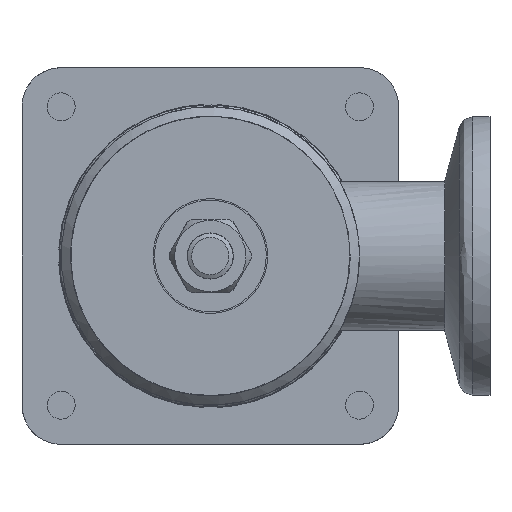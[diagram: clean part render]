
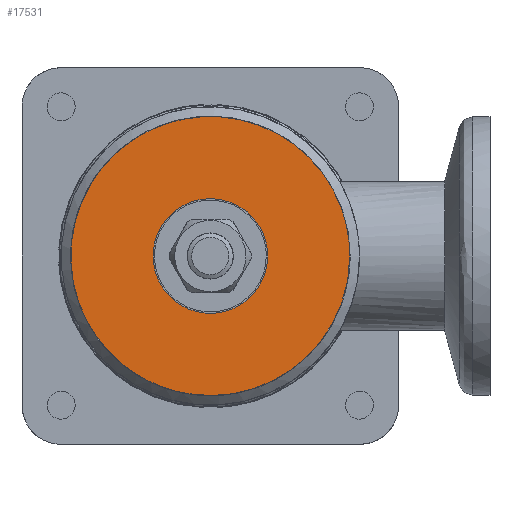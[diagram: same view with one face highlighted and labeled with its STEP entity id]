
A CAD part, front view. The second image highlights one B-rep face of the part: STEP entity #17531.
In plain terms, the highlighted free-form (B-spline) face has degree [1, 1] with [2, 2] control points.
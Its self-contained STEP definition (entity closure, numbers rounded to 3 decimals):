
#17473=CARTESIAN_POINT('V24',(0.,6.15,0.0)
   );
#17474=VERTEX_POINT('V24',#17473);
#17480=CARTESIAN_POINT('E39',(0.,6.15,0.0)
   );
#17481=CARTESIAN_POINT('E39',(0.,6.15,
   10.652));
#17482=CARTESIAN_POINT('E39',(0.,-3.075,
   5.326));
#17483=CARTESIAN_POINT('E39',(0.,-12.3,
   0.));
#17484=CARTESIAN_POINT('E39',(0.,-3.075,
   -5.326));
#17485=CARTESIAN_POINT('E39',(0.,6.15,
   -10.652));
#17486=CARTESIAN_POINT('E39',(0.,6.15,0.0)
   );
#17494=(BOUNDED_CURVE()B_SPLINE_CURVE(2,(#17480,#17481,#17482,
   #17483,#17484,#17485,#17486),.CIRCULAR_ARC.,.T.,.U.)
   B_SPLINE_CURVE_WITH_KNOTS((3,2,2,3),(0.0,0.333,
   0.667,1.0),.UNSPECIFIED.)CURVE()
   GEOMETRIC_REPRESENTATION_ITEM()RATIONAL_B_SPLINE_CURVE((1.0,
   0.5,1.0,0.5,1.0,0.5,1.0)
   )REPRESENTATION_ITEM('E39'));
#17495=EDGE_CURVE('E39',#17474,#17474,#17494,.T.);
#17502=CARTESIAN_POINT('F22',(0.,-16.456,
   16.456));
#17503=CARTESIAN_POINT('F22',(0.,16.456,
   16.456));
#17504=CARTESIAN_POINT('F22',(0.,-16.456,
   -16.456));
#17505=CARTESIAN_POINT('F22',(0.,16.456,
   -16.456));
#17506=QUASI_UNIFORM_SURFACE('F22',1,1,((#17502,#17504),(#17503,
   #17505)),.PLANE_SURF.,.F.,.F.,.U.);
#17507=CARTESIAN_POINT('V25',(0.,14.96,0.0)
   );
#17508=VERTEX_POINT('V25',#17507);
#17509=CARTESIAN_POINT('E40',(0.,14.96,0.0)
   );
#17510=CARTESIAN_POINT('E40',(0.,14.96,
   25.911));
#17511=CARTESIAN_POINT('E40',(0.,-7.48,
   12.956));
#17512=CARTESIAN_POINT('E40',(0.,-29.92,
   0.));
#17513=CARTESIAN_POINT('E40',(0.,-7.48,
   -12.956));
#17514=CARTESIAN_POINT('E40',(0.,14.96,
   -25.911));
#17515=CARTESIAN_POINT('E40',(0.,14.96,0.0)
   );
#17523=(BOUNDED_CURVE()B_SPLINE_CURVE(2,(#17509,#17510,#17511,
   #17512,#17513,#17514,#17515),.CIRCULAR_ARC.,.T.,.U.)
   B_SPLINE_CURVE_WITH_KNOTS((3,2,2,3),(0.0,28.027,
   56.055,84.082),.UNSPECIFIED.)CURVE()
   GEOMETRIC_REPRESENTATION_ITEM()RATIONAL_B_SPLINE_CURVE((1.0,
   0.5,1.0,0.5,1.0,0.5,1.0)
   )REPRESENTATION_ITEM('E40'));
#17524=EDGE_CURVE('E40',#17508,#17508,#17523,.T.);
#17525=ORIENTED_EDGE('E40',*,*,#17524,.T.);
#17526=EDGE_LOOP('F22',(#17525));
#17527=FACE_OUTER_BOUND('F22',#17526,.F.);
#17528=ORIENTED_EDGE('E39',*,*,#17495,.F.);
#17529=EDGE_LOOP('F22',(#17528));
#17530=FACE_BOUND('F22',#17529,.F.);
#17531=ADVANCED_FACE('F22',(#17527,#17530),#17506,.T.);
